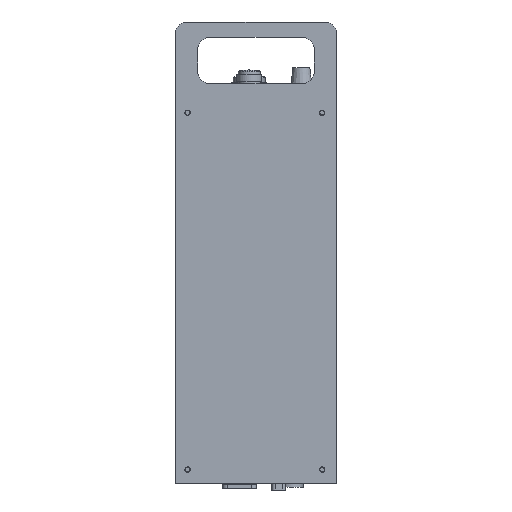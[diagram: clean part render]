
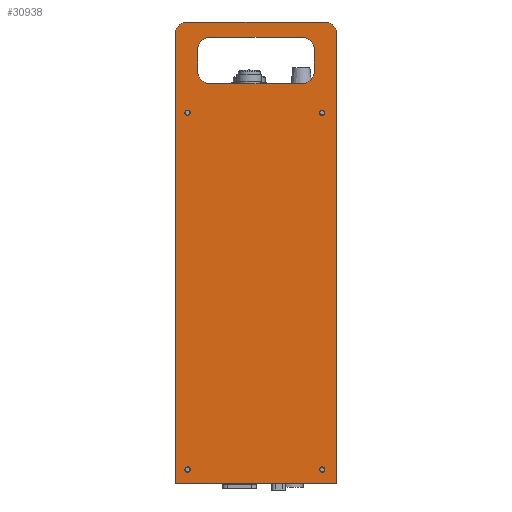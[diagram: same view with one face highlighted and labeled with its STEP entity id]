
A CAD part, left-side view. The second image highlights one B-rep face of the part: STEP entity #30938.
In plain terms, the highlighted planar face has unit normal (-1, 0, 0).
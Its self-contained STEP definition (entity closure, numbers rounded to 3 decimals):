
#1931=FACE_BOUND('',#7505,.F.);
#1932=FACE_BOUND('',#7506,.F.);
#1933=FACE_BOUND('',#7507,.F.);
#1934=FACE_BOUND('',#7508,.F.);
#1935=FACE_BOUND('',#7509,.F.);
#3445=FACE_OUTER_BOUND('',#7510,.F.);
#7505=EDGE_LOOP('',(#15892,#15893));
#7506=EDGE_LOOP('',(#15894,#15895));
#7507=EDGE_LOOP('',(#15896,#15897,#15898,#15899,#15900,#15901,#15902,#15903));
#7508=EDGE_LOOP('',(#15904,#15905));
#7509=EDGE_LOOP('',(#15906,#15907));
#7510=EDGE_LOOP('',(#15908,#15909,#15910,#15911,#15912,#15913,#15914));
#15892=ORIENTED_EDGE('',*,*,#57324,.T.);
#15893=ORIENTED_EDGE('',*,*,#57323,.T.);
#15894=ORIENTED_EDGE('',*,*,#57332,.T.);
#15895=ORIENTED_EDGE('',*,*,#57331,.T.);
#15896=ORIENTED_EDGE('',*,*,#57333,.T.);
#15897=ORIENTED_EDGE('',*,*,#57340,.T.);
#15898=ORIENTED_EDGE('',*,*,#57339,.T.);
#15899=ORIENTED_EDGE('',*,*,#57338,.T.);
#15900=ORIENTED_EDGE('',*,*,#57337,.T.);
#15901=ORIENTED_EDGE('',*,*,#57336,.T.);
#15902=ORIENTED_EDGE('',*,*,#57335,.T.);
#15903=ORIENTED_EDGE('',*,*,#57334,.T.);
#15904=ORIENTED_EDGE('',*,*,#57328,.T.);
#15905=ORIENTED_EDGE('',*,*,#57327,.T.);
#15906=ORIENTED_EDGE('',*,*,#57320,.T.);
#15907=ORIENTED_EDGE('',*,*,#57319,.T.);
#15908=ORIENTED_EDGE('',*,*,#57341,.F.);
#15909=ORIENTED_EDGE('',*,*,#57342,.F.);
#15910=ORIENTED_EDGE('',*,*,#57343,.F.);
#15911=ORIENTED_EDGE('',*,*,#57344,.F.);
#15912=ORIENTED_EDGE('',*,*,#57345,.F.);
#15913=ORIENTED_EDGE('',*,*,#57346,.F.);
#15914=ORIENTED_EDGE('',*,*,#57347,.F.);
#30938=ADVANCED_FACE('',(#1931,#1932,#1933,#1934,#1935,#3445),#34219,.T.);
#34219=PLANE('',#72880);
#39437=LINE('',#100801,#47205);
#39438=LINE('',#100803,#47206);
#39439=LINE('',#100805,#47207);
#39440=LINE('',#100807,#47208);
#39441=LINE('',#100809,#47209);
#39442=LINE('',#100811,#47210);
#39443=LINE('',#100812,#47211);
#39444=LINE('',#100813,#47212);
#39445=LINE('',#100815,#47213);
#47205=VECTOR('',#81792,14.);
#47206=VECTOR('',#81795,60.);
#47207=VECTOR('',#81798,14.);
#47208=VECTOR('',#81801,60.);
#47209=VECTOR('',#81804,85.);
#47210=VECTOR('',#81807,292.);
#47211=VECTOR('',#81808,105.);
#47212=VECTOR('',#81809,292.);
#47213=VECTOR('',#81812,4.);
#53512=CIRCLE('',#72854,1.75);
#53513=CIRCLE('',#72855,1.75);
#53516=CIRCLE('',#72858,1.75);
#53517=CIRCLE('',#72859,1.75);
#53520=CIRCLE('',#72862,1.75);
#53521=CIRCLE('',#72863,1.75);
#53524=CIRCLE('',#72866,1.75);
#53525=CIRCLE('',#72867,1.75);
#53526=CIRCLE('',#72868,8.);
#53527=CIRCLE('',#72869,8.);
#53528=CIRCLE('',#72870,8.);
#53529=CIRCLE('',#72871,8.);
#53530=CIRCLE('',#72872,8.);
#53531=CIRCLE('',#72873,8.);
#57319=EDGE_CURVE('',#66133,#66132,#53512,.T.);
#57320=EDGE_CURVE('',#66132,#66133,#53513,.T.);
#57323=EDGE_CURVE('',#66129,#66128,#53516,.T.);
#57324=EDGE_CURVE('',#66128,#66129,#53517,.T.);
#57327=EDGE_CURVE('',#66125,#66124,#53520,.T.);
#57328=EDGE_CURVE('',#66124,#66125,#53521,.T.);
#57331=EDGE_CURVE('',#66121,#66120,#53524,.T.);
#57332=EDGE_CURVE('',#66120,#66121,#53525,.T.);
#57333=EDGE_CURVE('',#66119,#66118,#39437,.T.);
#57334=EDGE_CURVE('',#66117,#66119,#53526,.T.);
#57335=EDGE_CURVE('',#66116,#66117,#39438,.T.);
#57336=EDGE_CURVE('',#66115,#66116,#53527,.T.);
#57337=EDGE_CURVE('',#66114,#66115,#39439,.T.);
#57338=EDGE_CURVE('',#66113,#66114,#53528,.T.);
#57339=EDGE_CURVE('',#66112,#66113,#39440,.T.);
#57340=EDGE_CURVE('',#66118,#66112,#53529,.T.);
#57341=EDGE_CURVE('',#66111,#66110,#39441,.T.);
#57342=EDGE_CURVE('',#66109,#66111,#53530,.T.);
#57343=EDGE_CURVE('',#66108,#66109,#39442,.T.);
#57344=EDGE_CURVE('',#66107,#66108,#39443,.T.);
#57345=EDGE_CURVE('',#66106,#66107,#39444,.T.);
#57346=EDGE_CURVE('',#66105,#66106,#53531,.T.);
#57347=EDGE_CURVE('',#66110,#66105,#39445,.T.);
#66105=VERTEX_POINT('',#100734);
#66106=VERTEX_POINT('',#100735);
#66107=VERTEX_POINT('',#100736);
#66108=VERTEX_POINT('',#100737);
#66109=VERTEX_POINT('',#100738);
#66110=VERTEX_POINT('',#100739);
#66111=VERTEX_POINT('',#100740);
#66112=VERTEX_POINT('',#100741);
#66113=VERTEX_POINT('',#100742);
#66114=VERTEX_POINT('',#100743);
#66115=VERTEX_POINT('',#100744);
#66116=VERTEX_POINT('',#100745);
#66117=VERTEX_POINT('',#100746);
#66118=VERTEX_POINT('',#100747);
#66119=VERTEX_POINT('',#100748);
#66120=VERTEX_POINT('',#100749);
#66121=VERTEX_POINT('',#100750);
#66124=VERTEX_POINT('',#100753);
#66125=VERTEX_POINT('',#100754);
#66128=VERTEX_POINT('',#100757);
#66129=VERTEX_POINT('',#100758);
#66132=VERTEX_POINT('',#100761);
#66133=VERTEX_POINT('',#100762);
#72854=AXIS2_PLACEMENT_3D('',#100787,#81764,#81765);
#72855=AXIS2_PLACEMENT_3D('',#100788,#81766,#81767);
#72858=AXIS2_PLACEMENT_3D('',#100791,#81772,#81773);
#72859=AXIS2_PLACEMENT_3D('',#100792,#81774,#81775);
#72862=AXIS2_PLACEMENT_3D('',#100795,#81780,#81781);
#72863=AXIS2_PLACEMENT_3D('',#100796,#81782,#81783);
#72866=AXIS2_PLACEMENT_3D('',#100799,#81788,#81789);
#72867=AXIS2_PLACEMENT_3D('',#100800,#81790,#81791);
#72868=AXIS2_PLACEMENT_3D('',#100802,#81793,#81794);
#72869=AXIS2_PLACEMENT_3D('',#100804,#81796,#81797);
#72870=AXIS2_PLACEMENT_3D('',#100806,#81799,#81800);
#72871=AXIS2_PLACEMENT_3D('',#100808,#81802,#81803);
#72872=AXIS2_PLACEMENT_3D('',#100810,#81805,#81806);
#72873=AXIS2_PLACEMENT_3D('',#100814,#81810,#81811);
#72880=AXIS2_PLACEMENT_3D('',#100876,#81879,#81880);
#81764=DIRECTION('',(-1.,0.,0.));
#81765=DIRECTION('',(0.,1.,0.));
#81766=DIRECTION('',(-1.,0.,0.));
#81767=DIRECTION('',(0.,-1.,0.));
#81772=DIRECTION('',(-1.,0.,0.));
#81773=DIRECTION('',(0.,1.,0.));
#81774=DIRECTION('',(-1.,0.,0.));
#81775=DIRECTION('',(0.,-1.,0.));
#81780=DIRECTION('',(-1.,0.,0.));
#81781=DIRECTION('',(0.,1.,0.));
#81782=DIRECTION('',(-1.,0.,0.));
#81783=DIRECTION('',(0.,-1.,0.));
#81788=DIRECTION('',(-1.,0.,0.));
#81789=DIRECTION('',(0.,1.,0.));
#81790=DIRECTION('',(-1.,0.,0.));
#81791=DIRECTION('',(0.,-1.,0.));
#81792=DIRECTION('',(0.,0.,-1.));
#81793=DIRECTION('',(-1.,0.,0.));
#81794=DIRECTION('',(0.,0.,1.));
#81795=DIRECTION('',(0.,1.,0.));
#81796=DIRECTION('',(-1.,0.,0.));
#81797=DIRECTION('',(0.,-1.,0.));
#81798=DIRECTION('',(0.,0.,1.));
#81799=DIRECTION('',(-1.,0.,0.));
#81800=DIRECTION('',(0.,0.,-1.));
#81801=DIRECTION('',(0.,-1.,0.));
#81802=DIRECTION('',(-1.,0.,0.));
#81803=DIRECTION('',(0.,1.,0.));
#81804=DIRECTION('',(0.,1.,0.));
#81805=DIRECTION('',(-1.,0.,0.));
#81806=DIRECTION('',(0.,-1.,0.));
#81807=DIRECTION('',(0.,0.,1.));
#81808=DIRECTION('',(0.,-1.,0.));
#81809=DIRECTION('',(0.,0.,-1.));
#81810=DIRECTION('',(-1.,0.,0.));
#81811=DIRECTION('',(0.,0.,1.));
#81812=DIRECTION('',(0.,1.,0.));
#81879=DIRECTION('',(-1.,0.,0.));
#81880=DIRECTION('',(0.,0.,1.));
#100734=CARTESIAN_POINT('',(-209.,52.5,155.));
#100735=CARTESIAN_POINT('',(-209.,60.5,147.));
#100736=CARTESIAN_POINT('',(-209.,60.5,-145.));
#100737=CARTESIAN_POINT('',(-209.,-44.5,-145.));
#100738=CARTESIAN_POINT('',(-209.,-44.5,147.));
#100739=CARTESIAN_POINT('',(-209.,48.5,155.));
#100740=CARTESIAN_POINT('',(-209.,-36.5,155.));
#100741=CARTESIAN_POINT('',(-209.,38.,115.));
#100742=CARTESIAN_POINT('',(-209.,-22.,115.));
#100743=CARTESIAN_POINT('',(-209.,-30.,123.));
#100744=CARTESIAN_POINT('',(-209.,-30.,137.));
#100745=CARTESIAN_POINT('',(-209.,-22.,145.));
#100746=CARTESIAN_POINT('',(-209.,38.,145.));
#100747=CARTESIAN_POINT('',(-209.,46.,123.));
#100748=CARTESIAN_POINT('',(-209.,46.,137.));
#100749=CARTESIAN_POINT('',(-209.,-36.75,96.));
#100750=CARTESIAN_POINT('',(-209.,-33.25,96.));
#100753=CARTESIAN_POINT('',(-209.,-36.75,-136.));
#100754=CARTESIAN_POINT('',(-209.,-33.25,-136.));
#100757=CARTESIAN_POINT('',(-209.,50.75,96.));
#100758=CARTESIAN_POINT('',(-209.,54.25,96.));
#100761=CARTESIAN_POINT('',(-209.,50.75,-136.));
#100762=CARTESIAN_POINT('',(-209.,54.25,-136.));
#100787=CARTESIAN_POINT('',(-209.,52.5,-136.));
#100788=CARTESIAN_POINT('',(-209.,52.5,-136.));
#100791=CARTESIAN_POINT('',(-209.,52.5,96.));
#100792=CARTESIAN_POINT('',(-209.,52.5,96.));
#100795=CARTESIAN_POINT('',(-209.,-35.,-136.));
#100796=CARTESIAN_POINT('',(-209.,-35.,-136.));
#100799=CARTESIAN_POINT('',(-209.,-35.,96.));
#100800=CARTESIAN_POINT('',(-209.,-35.,96.));
#100801=CARTESIAN_POINT('',(-209.,46.,137.));
#100802=CARTESIAN_POINT('',(-209.,38.,137.));
#100803=CARTESIAN_POINT('',(-209.,-22.,145.));
#100804=CARTESIAN_POINT('',(-209.,-22.,137.));
#100805=CARTESIAN_POINT('',(-209.,-30.,123.));
#100806=CARTESIAN_POINT('',(-209.,-22.,123.));
#100807=CARTESIAN_POINT('',(-209.,38.,115.));
#100808=CARTESIAN_POINT('',(-209.,38.,123.));
#100809=CARTESIAN_POINT('',(-209.,-36.5,155.));
#100810=CARTESIAN_POINT('',(-209.,-36.5,147.));
#100811=CARTESIAN_POINT('',(-209.,-44.5,-145.));
#100812=CARTESIAN_POINT('',(-209.,60.5,-145.));
#100813=CARTESIAN_POINT('',(-209.,60.5,147.));
#100814=CARTESIAN_POINT('',(-209.,52.5,147.));
#100815=CARTESIAN_POINT('',(-209.,48.5,155.));
#100876=CARTESIAN_POINT('',(-209.,-47.5,-148.));
